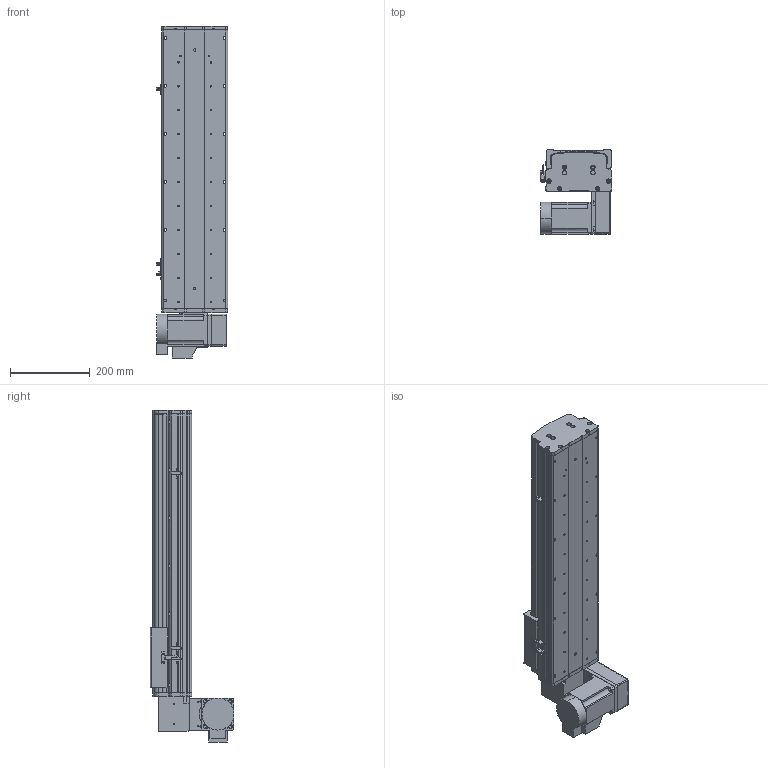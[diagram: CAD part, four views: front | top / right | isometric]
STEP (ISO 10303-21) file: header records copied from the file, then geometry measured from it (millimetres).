
FILE_DESCRIPTION (( 'STEP AP214' ), '1' );
FILE_NAME ('KSD165B-S450-MRD-CM .STEP', '2017-10-16T09:20:28', ( '微软用户' ), ( '微软中国' ), 'SwSTEP 2.0', 'SolidWorks 2014', '' );
FILE_SCHEMA (( 'AUTOMOTIVE_DESIGN' ));
Length unit declared in the file: millimetre
Products named in the file (17): KSD165模组同步带底板-450行程-最新; 拸秶雄ん750W侜督萇儂; 165宽马达安装板同步带右; U倰嫖萇假蚾璃; U倰嫖萇EEㄜSX672; 覜茼え68遵圉猾敕; KSD165模组-同步带-防撞垫2; KSD165模组同步带-防撞垫1; KSD165耀郪-ヶ傷啣1-肮祭湍; KSD165模组-后端板1-同步带; KSD165模组-同步带滑动座-最新版; KSD165B-S450-MRD-CM  ; 130宽模组马达安装板连板上下折丝杆同步带; 130宽模组保护罩上下左右折-同步带; HTPA26S5M250-A-H8 750W萇儂蚚; HTPA26S5M250-A-H8 400W萇儂蚚 ; KSD165模组-同步带防尘盖1-450行程-最新版
Assembly tree (20 placements, depth 2):
  KSD165B-S450-MRD-CM  
    KSD165模组-同步带滑动座-最新版
    KSD165模组-后端板1-同步带
    KSD165耀郪-ヶ傷啣1-肮祭湍
    KSD165模组同步带-防撞垫1
    KSD165模组-同步带-防撞垫2
    覜茼え68遵圉猾敕
    U倰嫖萇EEㄜSX672  x3
    U倰嫖萇假蚾璃  x3
    165宽马达安装板同步带右
    拸秶雄ん750W侜督萇儂
    KSD165模组同步带底板-450行程-最新
    KSD165模组-同步带防尘盖1-450行程-最新版
    HTPA26S5M250-A-H8 400W萇儂蚚 
    HTPA26S5M250-A-H8 750W萇儂蚚
    130宽模组保护罩上下左右折-同步带
    130宽模组马达安装板连板上下折丝杆同步带
Bounding box: 178.7 x 210 x 830.5 mm (x, y, z)
Volume: 5436804.1 mm3; surface area: 1255313.5 mm2
Topology: 21 solids, 21 shells, 1889 faces, 5322 edges, 3472 vertices
Faces by surface type: cylinder 1199, plane 578, cone 112
Entity records: 60684 total; most frequent: CARTESIAN_POINT 12424, DIRECTION 10030, ORIENTED_EDGE 9304, EDGE_CURVE 4652, AXIS2_PLACEMENT_3D 3924, VERTEX_POINT 3064, CIRCLE 2232, LINE 2182
